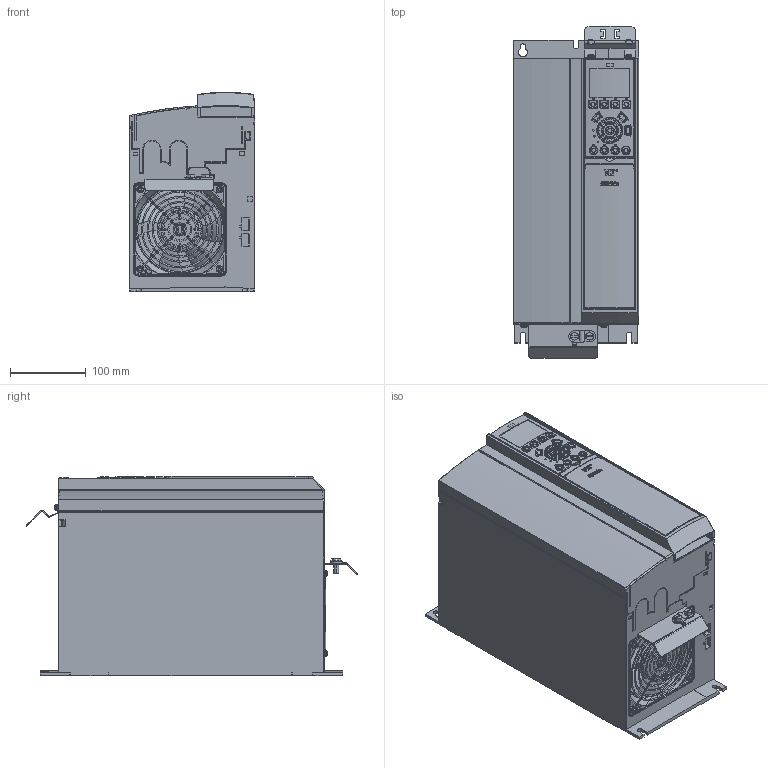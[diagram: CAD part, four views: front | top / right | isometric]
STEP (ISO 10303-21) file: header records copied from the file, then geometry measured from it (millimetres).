
FILE_DESCRIPTION((''),'2;1');
FILE_NAME('DANFOSS-FC200-B3-IP20-A-098','2007-06-14T',('janardhan.mankala'),('dan Drives A/S'),'PRO/ENGINEER BY PARAMETRIC TECHNOLOGY CORPORATION, 2006200','PRO/ENGINEER BY PARAMETRIC TECHNOLOGY CORPORATION, 2006200','');
FILE_SCHEMA(('CONFIG_CONTROL_DESIGN', 'GEOMETRIC_VALIDATION_PROPERTIES_MIM'));
Products named in the file (1): DANFOSS-FC200-B3-IP20-A-098
Bounding box: 165 x 437.49 x 262.51 mm (x, y, z)
Volume: 14052711.4 mm3; surface area: 537348.9 mm2
Topology: 2 solids, 19 shells, 3527 faces, 8600 edges, 5215 vertices
Faces by surface type: cylinder 1237, plane 1065, bspline 518, torus 356, sphere 170, cone 91, extrusion 90
Entity records: 187439 total; most frequent: CARTESIAN_POINT 59034, ORIENTED_EDGE 17188, DIRECTION 14835, PRESENTATION_STYLE_ASSIGNMENT 11032, STYLED_ITEM 8622, CURVE_STYLE 8594, EDGE_CURVE 8594, AXIS2_PLACEMENT_3D 5490
